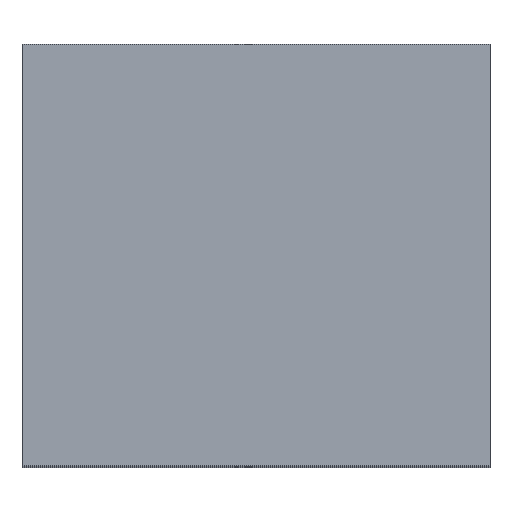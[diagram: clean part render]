
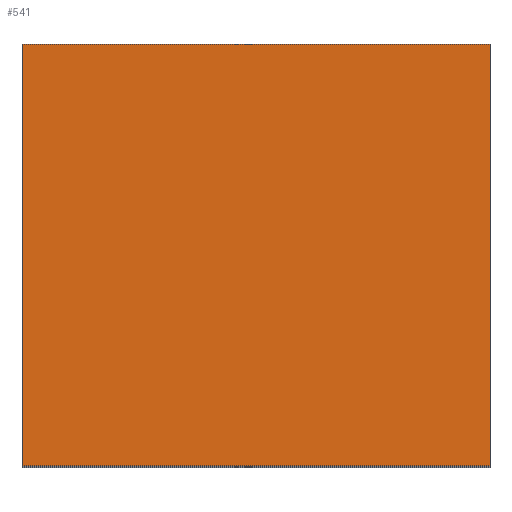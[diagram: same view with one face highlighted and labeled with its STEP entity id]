
A CAD part, top view. The second image highlights one B-rep face of the part: STEP entity #541.
In plain terms, the highlighted planar face has unit normal (0, 0, 1).
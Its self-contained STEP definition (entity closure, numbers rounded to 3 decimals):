
#50 = PLANE('',#51);
#51 = AXIS2_PLACEMENT_3D('',#52,#53,#54);
#52 = CARTESIAN_POINT('',(30.5,-8.7,41.));
#53 = DIRECTION('',(1.,0.,0.));
#54 = DIRECTION('',(0.,0.,1.));
#103 = VERTEX_POINT('',#104);
#104 = CARTESIAN_POINT('',(30.5,-6.,49.));
#118 = PLANE('',#119);
#119 = AXIS2_PLACEMENT_3D('',#120,#121,#122);
#120 = CARTESIAN_POINT('',(30.5,-6.,41.));
#121 = DIRECTION('',(0.,1.,0.));
#122 = DIRECTION('',(0.,0.,1.));
#130 = EDGE_CURVE('',#131,#103,#133,.T.);
#131 = VERTEX_POINT('',#132);
#132 = CARTESIAN_POINT('',(30.5,-8.7,49.));
#133 = SURFACE_CURVE('',#134,(#138,#145),.PCURVE_S1.);
#134 = LINE('',#135,#136);
#135 = CARTESIAN_POINT('',(30.5,-8.7,49.));
#136 = VECTOR('',#137,1.);
#137 = DIRECTION('',(0.,1.,0.));
#138 = PCURVE('',#50,#139);
#139 = DEFINITIONAL_REPRESENTATION('',(#140),#144);
#140 = LINE('',#141,#142);
#141 = CARTESIAN_POINT('',(8.,0.));
#142 = VECTOR('',#143,1.);
#143 = DIRECTION('',(0.,-1.));
#144 = ( GEOMETRIC_REPRESENTATION_CONTEXT(2) 
PARAMETRIC_REPRESENTATION_CONTEXT() REPRESENTATION_CONTEXT('2D SPACE',''
  ) );
#145 = PCURVE('',#146,#151);
#146 = PLANE('',#147);
#147 = AXIS2_PLACEMENT_3D('',#148,#149,#150);
#148 = CARTESIAN_POINT('',(30.5,-8.7,49.));
#149 = DIRECTION('',(0.,0.,1.));
#150 = DIRECTION('',(1.,0.,0.));
#151 = DEFINITIONAL_REPRESENTATION('',(#152),#156);
#152 = LINE('',#153,#154);
#153 = CARTESIAN_POINT('',(0.,0.));
#154 = VECTOR('',#155,1.);
#155 = DIRECTION('',(0.,1.));
#156 = ( GEOMETRIC_REPRESENTATION_CONTEXT(2) 
PARAMETRIC_REPRESENTATION_CONTEXT() REPRESENTATION_CONTEXT('2D SPACE',''
  ) );
#174 = PLANE('',#175);
#175 = AXIS2_PLACEMENT_3D('',#176,#177,#178);
#176 = CARTESIAN_POINT('',(30.5,-8.7,41.));
#177 = DIRECTION('',(0.,1.,0.));
#178 = DIRECTION('',(0.,0.,1.));
#291 = PLANE('',#292);
#292 = AXIS2_PLACEMENT_3D('',#293,#294,#295);
#293 = CARTESIAN_POINT('',(33.5,-8.7,41.));
#294 = DIRECTION('',(1.,0.,0.));
#295 = DIRECTION('',(0.,0.,1.));
#497 = VERTEX_POINT('',#498);
#498 = CARTESIAN_POINT('',(33.5,-8.7,49.));
#521 = EDGE_CURVE('',#131,#497,#522,.T.);
#522 = SURFACE_CURVE('',#523,(#527,#534),.PCURVE_S1.);
#523 = LINE('',#524,#525);
#524 = CARTESIAN_POINT('',(30.5,-8.7,49.));
#525 = VECTOR('',#526,1.);
#526 = DIRECTION('',(1.,0.,0.));
#527 = PCURVE('',#174,#528);
#528 = DEFINITIONAL_REPRESENTATION('',(#529),#533);
#529 = LINE('',#530,#531);
#530 = CARTESIAN_POINT('',(8.,0.));
#531 = VECTOR('',#532,1.);
#532 = DIRECTION('',(0.,1.));
#533 = ( GEOMETRIC_REPRESENTATION_CONTEXT(2) 
PARAMETRIC_REPRESENTATION_CONTEXT() REPRESENTATION_CONTEXT('2D SPACE',''
  ) );
#534 = PCURVE('',#146,#535);
#535 = DEFINITIONAL_REPRESENTATION('',(#536),#540);
#536 = LINE('',#537,#538);
#537 = CARTESIAN_POINT('',(0.,0.));
#538 = VECTOR('',#539,1.);
#539 = DIRECTION('',(1.,0.));
#540 = ( GEOMETRIC_REPRESENTATION_CONTEXT(2) 
PARAMETRIC_REPRESENTATION_CONTEXT() REPRESENTATION_CONTEXT('2D SPACE',''
  ) );
#541 = ADVANCED_FACE('',(#542),#146,.T.);
#542 = FACE_BOUND('',#543,.T.);
#543 = EDGE_LOOP('',(#544,#545,#546,#569));
#544 = ORIENTED_EDGE('',*,*,#130,.F.);
#545 = ORIENTED_EDGE('',*,*,#521,.T.);
#546 = ORIENTED_EDGE('',*,*,#547,.T.);
#547 = EDGE_CURVE('',#497,#548,#550,.T.);
#548 = VERTEX_POINT('',#549);
#549 = CARTESIAN_POINT('',(33.5,-6.,49.));
#550 = SURFACE_CURVE('',#551,(#555,#562),.PCURVE_S1.);
#551 = LINE('',#552,#553);
#552 = CARTESIAN_POINT('',(33.5,-8.7,49.));
#553 = VECTOR('',#554,1.);
#554 = DIRECTION('',(0.,1.,0.));
#555 = PCURVE('',#146,#556);
#556 = DEFINITIONAL_REPRESENTATION('',(#557),#561);
#557 = LINE('',#558,#559);
#558 = CARTESIAN_POINT('',(3.,0.));
#559 = VECTOR('',#560,1.);
#560 = DIRECTION('',(0.,1.));
#561 = ( GEOMETRIC_REPRESENTATION_CONTEXT(2) 
PARAMETRIC_REPRESENTATION_CONTEXT() REPRESENTATION_CONTEXT('2D SPACE',''
  ) );
#562 = PCURVE('',#291,#563);
#563 = DEFINITIONAL_REPRESENTATION('',(#564),#568);
#564 = LINE('',#565,#566);
#565 = CARTESIAN_POINT('',(8.,0.));
#566 = VECTOR('',#567,1.);
#567 = DIRECTION('',(0.,-1.));
#568 = ( GEOMETRIC_REPRESENTATION_CONTEXT(2) 
PARAMETRIC_REPRESENTATION_CONTEXT() REPRESENTATION_CONTEXT('2D SPACE',''
  ) );
#569 = ORIENTED_EDGE('',*,*,#570,.F.);
#570 = EDGE_CURVE('',#103,#548,#571,.T.);
#571 = SURFACE_CURVE('',#572,(#576,#583),.PCURVE_S1.);
#572 = LINE('',#573,#574);
#573 = CARTESIAN_POINT('',(30.5,-6.,49.));
#574 = VECTOR('',#575,1.);
#575 = DIRECTION('',(1.,0.,0.));
#576 = PCURVE('',#146,#577);
#577 = DEFINITIONAL_REPRESENTATION('',(#578),#582);
#578 = LINE('',#579,#580);
#579 = CARTESIAN_POINT('',(0.,2.7));
#580 = VECTOR('',#581,1.);
#581 = DIRECTION('',(1.,0.));
#582 = ( GEOMETRIC_REPRESENTATION_CONTEXT(2) 
PARAMETRIC_REPRESENTATION_CONTEXT() REPRESENTATION_CONTEXT('2D SPACE',''
  ) );
#583 = PCURVE('',#118,#584);
#584 = DEFINITIONAL_REPRESENTATION('',(#585),#589);
#585 = LINE('',#586,#587);
#586 = CARTESIAN_POINT('',(8.,0.));
#587 = VECTOR('',#588,1.);
#588 = DIRECTION('',(0.,1.));
#589 = ( GEOMETRIC_REPRESENTATION_CONTEXT(2) 
PARAMETRIC_REPRESENTATION_CONTEXT() REPRESENTATION_CONTEXT('2D SPACE',''
  ) );
